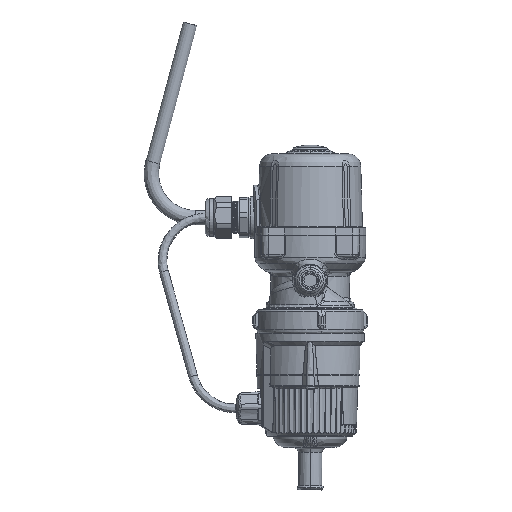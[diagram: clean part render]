
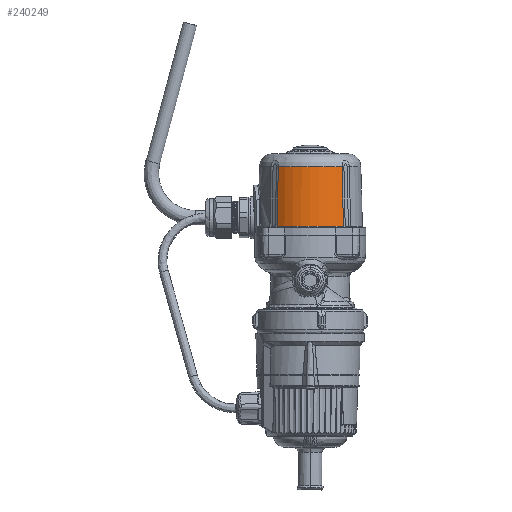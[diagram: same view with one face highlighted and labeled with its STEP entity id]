
A CAD part, left-side view. The second image highlights one B-rep face of the part: STEP entity #240249.
In plain terms, the highlighted free-form (B-spline) face has degree [2, 1] with [9, 2] control points.
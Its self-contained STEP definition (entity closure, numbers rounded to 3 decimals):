
#235702=CARTESIAN_POINT('',(-93.603,0.,-23.026));
#235703=VERTEX_POINT('',#235702);
#235711=CARTESIAN_POINT('',(-85.473,22.645,-23.026));
#235712=VERTEX_POINT('',#235711);
#235713=CARTESIAN_POINT('',(-58.,0.,-23.026));
#235714=DIRECTION('',(0.,0.,1.0));
#235715=DIRECTION('',(-1.0,0.,0.));
#235716=AXIS2_PLACEMENT_3D('',#235713,#235714,#235715);
#235717=CIRCLE('',#235716,35.603);
#235718=EDGE_CURVE('',#235712,#235703,#235717,.T.);
#240180=CARTESIAN_POINT('',(-58.,0.,1336.596));
#240181=CARTESIAN_POINT('',(-58.,0.,1336.596));
#240182=CARTESIAN_POINT('',(-58.,0.,1336.596));
#240183=CARTESIAN_POINT('',(-58.,0.,1336.596));
#240184=CARTESIAN_POINT('',(-58.,0.,1336.596));
#240185=CARTESIAN_POINT('',(-58.,0.,1336.596));
#240186=CARTESIAN_POINT('',(-58.,0.,1336.596));
#240187=CARTESIAN_POINT('',(-58.,0.,1336.596));
#240188=CARTESIAN_POINT('',(-58.,0.,1336.596));
#240189=CARTESIAN_POINT('',(-20.617,0.,-91.007));
#240190=CARTESIAN_POINT('',(-20.617,-37.383,-91.007));
#240191=CARTESIAN_POINT('',(-58.,-37.383,-91.007));
#240192=CARTESIAN_POINT('',(-95.383,-37.383,-91.007));
#240193=CARTESIAN_POINT('',(-95.383,0.,-91.007));
#240194=CARTESIAN_POINT('',(-95.383,37.383,-91.007));
#240195=CARTESIAN_POINT('',(-58.,37.383,-91.007));
#240196=CARTESIAN_POINT('',(-20.617,37.383,-91.007));
#240197=CARTESIAN_POINT('',(-20.617,0.,-91.007));
#240205=(BOUNDED_SURFACE()B_SPLINE_SURFACE(2,1,((#240180,#240189),(#240181,#240190),(#240182,#240191),(#240183,#240192),(#240184,#240193),(#240185,#240194),(#240186,#240195),(#240187,#240196),(#240188,#240197)),.UNSPECIFIED.,.T.,.F.,.U.)B_SPLINE_SURFACE_WITH_KNOTS((3,2,2,2,3),(2,2),(0.0,0.25,0.5,0.75,1.0),(0.0,1.0),.UNSPECIFIED.)GEOMETRIC_REPRESENTATION_ITEM()RATIONAL_B_SPLINE_SURFACE(((1.0,1.0),(0.707,0.707),(1.0,1.0),(0.707,0.707),(1.0,1.0),(0.707,0.707),(1.0,1.0),(0.707,0.707),(1.0,1.0)))REPRESENTATION_ITEM('')SURFACE());
#240206=CARTESIAN_POINT('',(-84.8,21.782,17.736));
#240207=VERTEX_POINT('',#240206);
#240208=CARTESIAN_POINT('',(-84.8,21.782,17.736));
#240209=CARTESIAN_POINT('',(-84.964,21.989,7.889));
#240210=CARTESIAN_POINT('',(-85.127,22.197,-1.958));
#240211=CARTESIAN_POINT('',(-85.289,22.406,-11.805));
#240212=CARTESIAN_POINT('',(-85.351,22.486,-15.546));
#240213=CARTESIAN_POINT('',(-85.412,22.565,-19.286));
#240214=CARTESIAN_POINT('',(-85.473,22.645,-23.026));
#240215=B_SPLINE_CURVE_WITH_KNOTS('',3,(#240208,#240209,#240210,#240211,#240212,#240213,#240214),.UNSPECIFIED.,.F.,.U.,(4,3,4),(0.,0.03,0.041),.UNSPECIFIED.);
#240216=EDGE_CURVE('',#240207,#235712,#240215,.T.);
#240217=ORIENTED_EDGE('',*,*,#240216,.T.);
#240218=ORIENTED_EDGE('',*,*,#235718,.T.);
#240219=CARTESIAN_POINT('',(-85.473,-22.645,-23.026));
#240220=VERTEX_POINT('',#240219);
#240221=CARTESIAN_POINT('',(-58.,0.,-23.026));
#240222=DIRECTION('',(0.,0.,1.0));
#240223=DIRECTION('',(-1.0,0.,0.));
#240224=AXIS2_PLACEMENT_3D('',#240221,#240222,#240223);
#240225=CIRCLE('',#240224,35.603);
#240226=EDGE_CURVE('',#235703,#240220,#240225,.T.);
#240227=ORIENTED_EDGE('',*,*,#240226,.T.);
#240228=CARTESIAN_POINT('',(-84.8,-21.782,17.736));
#240229=VERTEX_POINT('',#240228);
#240230=CARTESIAN_POINT('',(-85.473,-22.645,-23.026));
#240231=CARTESIAN_POINT('',(-85.335,-22.465,-14.567));
#240232=CARTESIAN_POINT('',(-85.195,-22.285,-6.108));
#240233=CARTESIAN_POINT('',(-85.055,-22.106,2.351));
#240234=CARTESIAN_POINT('',(-84.971,-21.998,7.479));
#240235=CARTESIAN_POINT('',(-84.886,-21.89,12.608));
#240236=CARTESIAN_POINT('',(-84.8,-21.782,17.736));
#240237=B_SPLINE_CURVE_WITH_KNOTS('',3,(#240230,#240231,#240232,#240233,#240234,#240235,#240236),.UNSPECIFIED.,.F.,.U.,(4,3,4),(0.001,0.026,0.042),.UNSPECIFIED.);
#240238=EDGE_CURVE('',#240220,#240229,#240237,.T.);
#240239=ORIENTED_EDGE('',*,*,#240238,.T.);
#240240=CARTESIAN_POINT('',(-58.,0.,17.736));
#240241=DIRECTION('',(0.,0.,1.0));
#240242=DIRECTION('',(0.,1.0,0.));
#240243=AXIS2_PLACEMENT_3D('',#240240,#240241,#240242);
#240244=CIRCLE('',#240243,34.536);
#240245=EDGE_CURVE('',#240207,#240229,#240244,.T.);
#240246=ORIENTED_EDGE('',*,*,#240245,.F.);
#240247=EDGE_LOOP('',(#240217,#240218,#240227,#240239,#240246));
#240248=FACE_OUTER_BOUND('',#240247,.T.);
#240249=ADVANCED_FACE('',(#240248),#240205,.T.);
